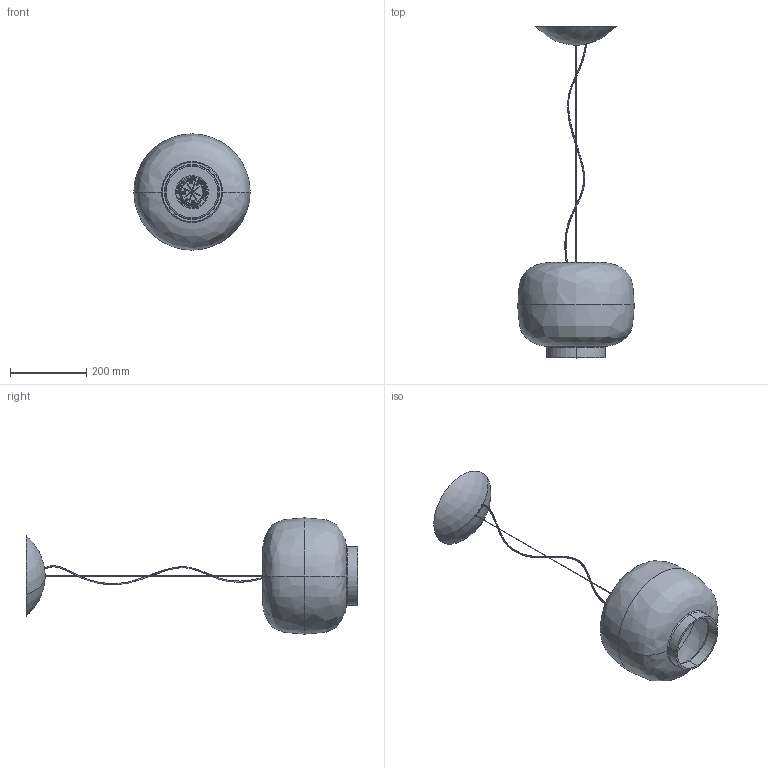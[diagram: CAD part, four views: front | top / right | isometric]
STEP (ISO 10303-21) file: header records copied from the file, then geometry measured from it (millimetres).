
FILE_DESCRIPTION (( 'STEP AP214' ), '1' );
FILE_NAME ('210_3_S_LD_3D.STEP', '2021-05-19T12:39:35', ( '' ), ( '' ), 'SwSTEP 2.0', 'SolidWorks 2021', '' );
FILE_SCHEMA (( 'AUTOMOTIVE_DESIGN' ));
Length unit declared in the file: millimetre
Products named in the file (1): 210_3_S_LD_3D
Bounding box: 304 x 867.76 x 304 mm (x, y, z)
Volume: 2305168.2 mm3; surface area: 651925.8 mm2
Topology: 7 solids, 7 shells, 1345 faces, 3470 edges, 2106 vertices
Faces by surface type: bspline 485, plane 342, cylinder 208, torus 173, cone 103, sphere 34
Entity records: 69152 total; most frequent: CARTESIAN_POINT 26182, ORIENTED_EDGE 6792, DIRECTION 4653, EDGE_CURVE 3396, VERTEX_POINT 2106, AXIS2_PLACEMENT_3D 1915, EDGE_LOOP 1418, B_SPLINE_CURVE_WITH_KNOTS 1366
